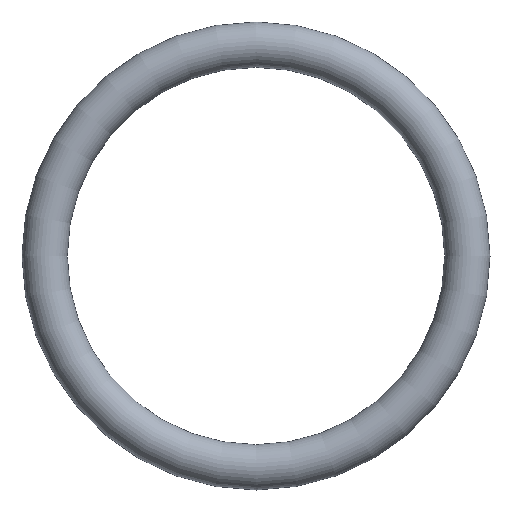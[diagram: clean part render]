
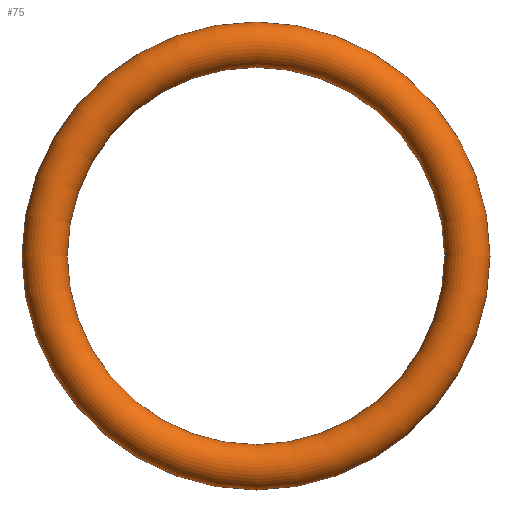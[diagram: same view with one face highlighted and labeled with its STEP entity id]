
A CAD part, front view. The second image highlights one B-rep face of the part: STEP entity #75.
In plain terms, the highlighted toroidal (fillet/blend) face has major radius 14 mm and minor radius 1.5 mm.
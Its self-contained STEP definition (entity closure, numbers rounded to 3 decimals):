
#75 = ADVANCED_FACE( '', ( #77 ), #78, .T. );
#77 = FACE_BOUND( '', #79, .T. );
#78 = TOROIDAL_SURFACE( '', #80, 14., 1.5 );
#79 = VERTEX_LOOP( '', #81 );
#80 = AXIS2_PLACEMENT_3D( '', #82, #83, #84 );
#81 = VERTEX_POINT( '', #85 );
#82 = CARTESIAN_POINT( '', ( 0., 0., 0. ) );
#83 = DIRECTION( '', ( 0., -1., 0. ) );
#84 = DIRECTION( '', ( 0., 0., -1. ) );
#85 = CARTESIAN_POINT( '', ( 0., 0., -15.5 ) );
